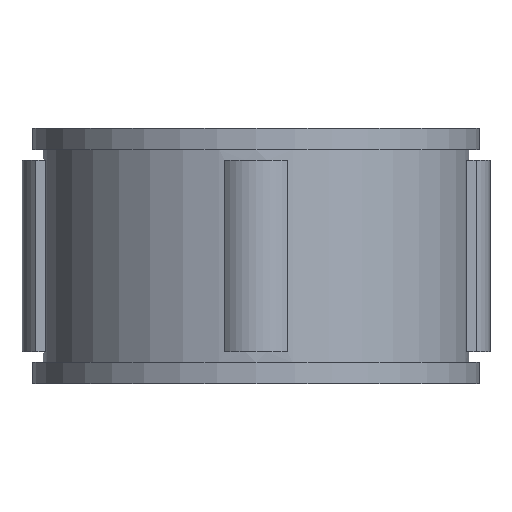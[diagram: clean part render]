
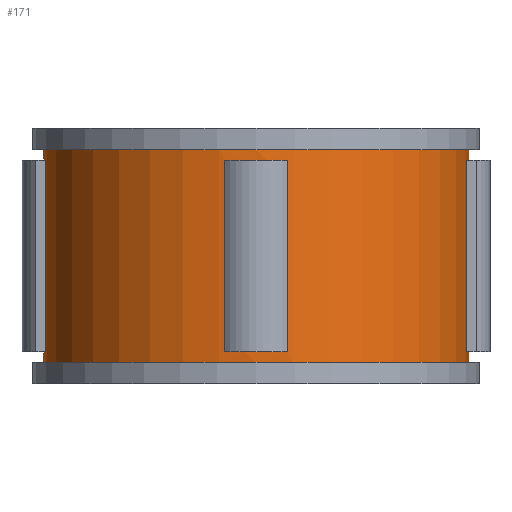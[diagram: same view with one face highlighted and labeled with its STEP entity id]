
A CAD part, front view. The second image highlights one B-rep face of the part: STEP entity #171.
In plain terms, the highlighted cylindrical face has radius 10 mm (diameter 20 mm), a full revolution.
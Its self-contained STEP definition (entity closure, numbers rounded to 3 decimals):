
#171=ADVANCED_FACE('',(#359,#360,#361,#362,#363,#364),#219,.T.);
#219=CYLINDRICAL_SURFACE('',#882,10.);
#231=LINE('',#1207,#295);
#232=LINE('',#1212,#296);
#233=LINE('',#1215,#297);
#234=LINE('',#1220,#298);
#235=LINE('',#1223,#299);
#236=LINE('',#1228,#300);
#237=LINE('',#1234,#301);
#238=LINE('',#1238,#302);
#295=VECTOR('',#966,1.);
#296=VECTOR('',#969,1.);
#297=VECTOR('',#972,1.);
#298=VECTOR('',#975,1.);
#299=VECTOR('',#978,1.);
#300=VECTOR('',#981,1.);
#301=VECTOR('',#986,1.);
#302=VECTOR('',#989,1.);
#359=FACE_BOUND('',#383,.T.);
#360=FACE_BOUND('',#384,.T.);
#361=FACE_BOUND('',#385,.T.);
#362=FACE_BOUND('',#386,.T.);
#363=FACE_BOUND('',#387,.T.);
#364=FACE_BOUND('',#388,.T.);
#383=EDGE_LOOP('',(#447));
#384=EDGE_LOOP('',(#448));
#385=EDGE_LOOP('',(#449,#450,#451,#452));
#386=EDGE_LOOP('',(#453,#454,#455,#456));
#387=EDGE_LOOP('',(#457,#458,#459,#460));
#388=EDGE_LOOP('',(#461,#462,#463,#464));
#447=ORIENTED_EDGE('',*,*,#727,.F.);
#448=ORIENTED_EDGE('',*,*,#728,.T.);
#449=ORIENTED_EDGE('',*,*,#729,.F.);
#450=ORIENTED_EDGE('',*,*,#730,.T.);
#451=ORIENTED_EDGE('',*,*,#731,.F.);
#452=ORIENTED_EDGE('',*,*,#732,.F.);
#453=ORIENTED_EDGE('',*,*,#733,.F.);
#454=ORIENTED_EDGE('',*,*,#734,.T.);
#455=ORIENTED_EDGE('',*,*,#735,.F.);
#456=ORIENTED_EDGE('',*,*,#736,.F.);
#457=ORIENTED_EDGE('',*,*,#737,.F.);
#458=ORIENTED_EDGE('',*,*,#738,.T.);
#459=ORIENTED_EDGE('',*,*,#739,.F.);
#460=ORIENTED_EDGE('',*,*,#740,.F.);
#461=ORIENTED_EDGE('',*,*,#741,.F.);
#462=ORIENTED_EDGE('',*,*,#742,.T.);
#463=ORIENTED_EDGE('',*,*,#743,.T.);
#464=ORIENTED_EDGE('',*,*,#744,.T.);
#655=VERTEX_POINT('',#1204);
#656=VERTEX_POINT('',#1206);
#657=VERTEX_POINT('',#1208);
#658=VERTEX_POINT('',#1209);
#659=VERTEX_POINT('',#1211);
#660=VERTEX_POINT('',#1213);
#661=VERTEX_POINT('',#1216);
#662=VERTEX_POINT('',#1217);
#663=VERTEX_POINT('',#1219);
#664=VERTEX_POINT('',#1221);
#665=VERTEX_POINT('',#1224);
#666=VERTEX_POINT('',#1225);
#667=VERTEX_POINT('',#1227);
#668=VERTEX_POINT('',#1229);
#669=VERTEX_POINT('',#1232);
#670=VERTEX_POINT('',#1233);
#671=VERTEX_POINT('',#1235);
#672=VERTEX_POINT('',#1237);
#727=EDGE_CURVE('',#655,#655,#831,.T.);
#728=EDGE_CURVE('',#656,#656,#832,.T.);
#729=EDGE_CURVE('',#657,#658,#231,.T.);
#730=EDGE_CURVE('',#657,#659,#833,.T.);
#731=EDGE_CURVE('',#660,#659,#232,.T.);
#732=EDGE_CURVE('',#658,#660,#834,.T.);
#733=EDGE_CURVE('',#661,#662,#233,.T.);
#734=EDGE_CURVE('',#661,#663,#835,.T.);
#735=EDGE_CURVE('',#664,#663,#234,.T.);
#736=EDGE_CURVE('',#662,#664,#836,.T.);
#737=EDGE_CURVE('',#665,#666,#235,.T.);
#738=EDGE_CURVE('',#665,#667,#837,.T.);
#739=EDGE_CURVE('',#668,#667,#236,.T.);
#740=EDGE_CURVE('',#666,#668,#838,.T.);
#741=EDGE_CURVE('',#669,#670,#839,.T.);
#742=EDGE_CURVE('',#669,#671,#237,.T.);
#743=EDGE_CURVE('',#671,#672,#840,.T.);
#744=EDGE_CURVE('',#672,#670,#238,.T.);
#831=CIRCLE('',#872,10.);
#832=CIRCLE('',#873,10.);
#833=CIRCLE('',#874,10.);
#834=CIRCLE('',#875,10.);
#835=CIRCLE('',#876,10.);
#836=CIRCLE('',#877,10.);
#837=CIRCLE('',#878,10.);
#838=CIRCLE('',#879,10.);
#839=CIRCLE('',#880,10.);
#840=CIRCLE('',#881,10.);
#872=AXIS2_PLACEMENT_3D('',#1203,#962,#963);
#873=AXIS2_PLACEMENT_3D('',#1205,#964,#965);
#874=AXIS2_PLACEMENT_3D('',#1210,#967,#968);
#875=AXIS2_PLACEMENT_3D('',#1214,#970,#971);
#876=AXIS2_PLACEMENT_3D('',#1218,#973,#974);
#877=AXIS2_PLACEMENT_3D('',#1222,#976,#977);
#878=AXIS2_PLACEMENT_3D('',#1226,#979,#980);
#879=AXIS2_PLACEMENT_3D('',#1230,#982,#983);
#880=AXIS2_PLACEMENT_3D('',#1231,#984,#985);
#881=AXIS2_PLACEMENT_3D('',#1236,#987,#988);
#882=AXIS2_PLACEMENT_3D('',#1239,#990,#991);
#962=DIRECTION('',(0.,0.,1.));
#963=DIRECTION('',(1.,0.,0.));
#964=DIRECTION('',(0.,0.,1.));
#965=DIRECTION('',(1.,0.,0.));
#966=DIRECTION('',(0.,0.,-1.));
#967=DIRECTION('',(0.,0.,1.));
#968=DIRECTION('',(1.,0.,0.));
#969=DIRECTION('',(0.,0.,1.));
#970=DIRECTION('',(0.,0.,1.));
#971=DIRECTION('',(1.,0.,0.));
#972=DIRECTION('',(0.,0.,-1.));
#973=DIRECTION('',(0.,0.,1.));
#974=DIRECTION('',(1.,0.,0.));
#975=DIRECTION('',(0.,0.,1.));
#976=DIRECTION('',(0.,0.,1.));
#977=DIRECTION('',(1.,0.,0.));
#978=DIRECTION('',(0.,0.,-1.));
#979=DIRECTION('',(0.,0.,1.));
#980=DIRECTION('',(1.,0.,0.));
#981=DIRECTION('',(0.,0.,1.));
#982=DIRECTION('',(0.,0.,1.));
#983=DIRECTION('',(1.,0.,0.));
#984=DIRECTION('',(0.,0.,-1.));
#985=DIRECTION('',(-1.,0.,0.));
#986=DIRECTION('',(0.,0.,-1.));
#987=DIRECTION('',(0.,0.,-1.));
#988=DIRECTION('',(-1.,0.,0.));
#989=DIRECTION('',(0.,0.,1.));
#990=DIRECTION('',(0.,0.,-1.));
#991=DIRECTION('',(-1.,0.,0.));
#1203=CARTESIAN_POINT('',(0.,0.,11.));
#1204=CARTESIAN_POINT('',(10.,0.,11.));
#1205=CARTESIAN_POINT('',(0.,0.,1.));
#1206=CARTESIAN_POINT('',(10.,0.,1.));
#1207=CARTESIAN_POINT('',(9.891,-1.471,12.));
#1208=CARTESIAN_POINT('',(9.891,-1.471,10.5));
#1209=CARTESIAN_POINT('',(9.891,-1.471,1.5));
#1210=CARTESIAN_POINT('',(0.,0.,10.5));
#1211=CARTESIAN_POINT('',(9.891,1.471,10.5));
#1212=CARTESIAN_POINT('',(9.891,1.471,12.));
#1213=CARTESIAN_POINT('',(9.891,1.471,1.5));
#1214=CARTESIAN_POINT('',(0.,0.,1.5));
#1215=CARTESIAN_POINT('',(1.471,9.891,12.));
#1216=CARTESIAN_POINT('',(1.471,9.891,10.5));
#1217=CARTESIAN_POINT('',(1.471,9.891,1.5));
#1218=CARTESIAN_POINT('',(0.,0.,10.5));
#1219=CARTESIAN_POINT('',(-1.471,9.891,10.5));
#1220=CARTESIAN_POINT('',(-1.471,9.891,12.));
#1221=CARTESIAN_POINT('',(-1.471,9.891,1.5));
#1222=CARTESIAN_POINT('',(0.,0.,1.5));
#1223=CARTESIAN_POINT('',(-9.891,1.471,12.));
#1224=CARTESIAN_POINT('',(-9.891,1.471,10.5));
#1225=CARTESIAN_POINT('',(-9.891,1.471,1.5));
#1226=CARTESIAN_POINT('',(0.,0.,10.5));
#1227=CARTESIAN_POINT('',(-9.891,-1.471,10.5));
#1228=CARTESIAN_POINT('',(-9.891,-1.471,12.));
#1229=CARTESIAN_POINT('',(-9.891,-1.471,1.5));
#1230=CARTESIAN_POINT('',(0.,0.,1.5));
#1231=CARTESIAN_POINT('',(0.,0.,10.5));
#1232=CARTESIAN_POINT('',(1.471,-9.891,10.5));
#1233=CARTESIAN_POINT('',(-1.471,-9.891,10.5));
#1234=CARTESIAN_POINT('',(1.471,-9.891,12.));
#1235=CARTESIAN_POINT('',(1.471,-9.891,1.5));
#1236=CARTESIAN_POINT('',(0.,0.,1.5));
#1237=CARTESIAN_POINT('',(-1.471,-9.891,1.5));
#1238=CARTESIAN_POINT('',(-1.471,-9.891,12.));
#1239=CARTESIAN_POINT('',(0.,0.,12.));
